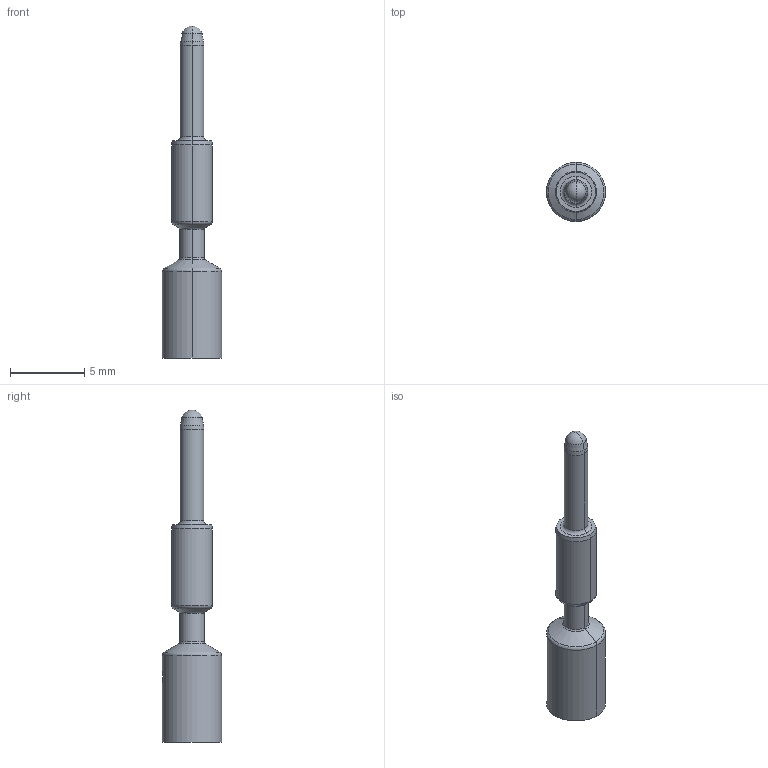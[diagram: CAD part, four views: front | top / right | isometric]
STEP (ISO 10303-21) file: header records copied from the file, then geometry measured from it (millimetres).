
FILE_DESCRIPTION((''),'2;1');
FILE_NAME('C-2213266-5','2015-03-19T',('workeradm'),('Tyco Electronics Ltd.'),'PRO/ENGINEER BY PARAMETRIC TECHNOLOGY CORPORATION, 2014090','PRO/ENGINEER BY PARAMETRIC TECHNOLOGY CORPORATION, 2014090','');
FILE_SCHEMA(('AUTOMOTIVE_DESIGN { 1 0 10303 214 1 1 1 1 }'));
Length unit declared in the file: millimetre
Products named in the file (1): C-2213266-5
Bounding box: 3.98 x 3.98 x 22.32 mm (x, y, z)
Volume: 126.2 mm3; surface area: 211.2 mm2
Topology: 1 solids, 1 shells, 40 faces, 83 edges, 45 vertices
Faces by surface type: cylinder 13, cone 10, torus 10, plane 3, bspline 2, sphere 2
Entity records: 1307 total; most frequent: CARTESIAN_POINT 278, DIRECTION 203, ORIENTED_EDGE 162, COLOUR_RGB 126, AXIS2_PLACEMENT_3D 90, EDGE_CURVE 81, CIRCLE 52, VERTEX_POINT 45
